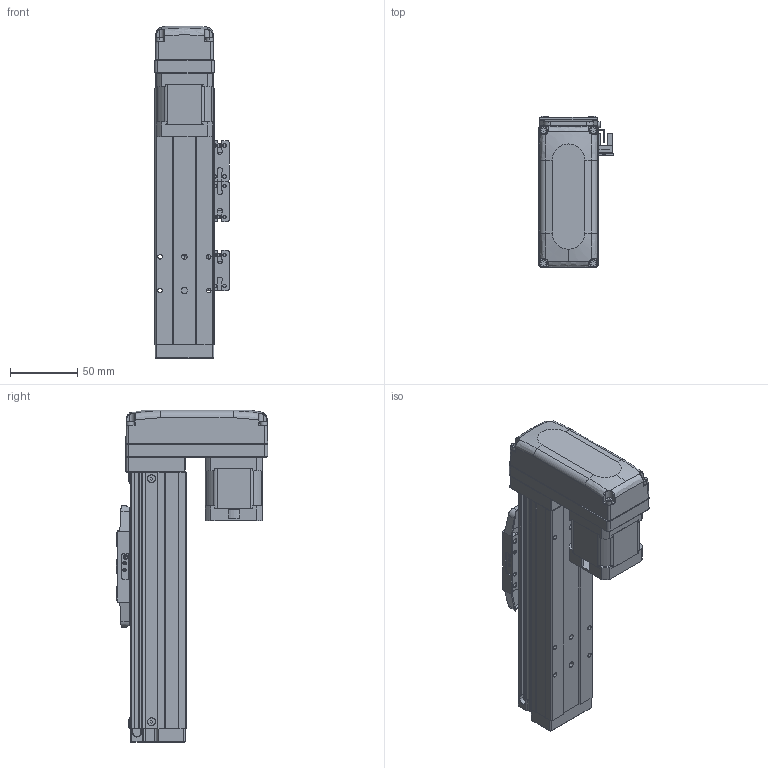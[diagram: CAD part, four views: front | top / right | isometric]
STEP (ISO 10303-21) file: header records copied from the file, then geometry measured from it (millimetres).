
FILE_DESCRIPTION (( 'STEP AP203' ), '1' );
FILE_NAME ('GTH4-50-BM-B42-C4.step', '2023-02-14T00:21:44', ( '微软用户' ), ( '微软中国' ), 'SwSTEP 2.0', 'SolidWorks 2020', '' );
FILE_SCHEMA (( 'CONFIG_CONTROL_DESIGN' ));
Length unit declared in the file: millimetre
Products named in the file (19): BTH40-006; GBT96.1-2002 3×0.8; BTH50-026; BTH-M3X5X6; BTH40-022; 42CM06; GBT70.1-2000 M3×16; GBT 70.1-M2.5×6; GTH4-50-BM-B42-C4; BTH50-028; BTH40-004; BTH50-023; BTH40-013; BTH40-001-50_BTH40-001-50; BTH50-024; GBT 70.3-M3℅6; BTH40-003; GBT 70.1-M3℅6; BTH40-027-1
Assembly tree (47 placements, depth 2):
  GTH4-50-BM-B42-C4
    BTH40-001-50_BTH40-001-50
    BTH40-003
    BTH40-006
    BTH-M3X5X6  x8
    GBT70.1-2000 M3×16  x4
    BTH50-028  x2
    BTH50-023  x3
    BTH50-024  x3
    GBT 70.1-M3℅6  x6
    GBT96.1-2002 3×0.8  x6
    BTH40-022
    GBT 70.1-M2.5×6  x2
    BTH40-004
    BTH40-013
    GBT 70.3-M3℅6  x4
    BTH40-027-1
    BTH50-026
    42CM06
Bounding box: 55.2 x 112 x 246 mm (x, y, z)
Volume: 561378.7 mm3; surface area: 148437 mm2
Topology: 56 solids, 56 shells, 3323 faces, 7736 edges, 4622 vertices
Faces by surface type: cone 1508, plane 1076, cylinder 561, torus 124, bspline 42, sphere 12
Entity records: 77446 total; most frequent: CARTESIAN_POINT 13969, DIRECTION 13761, ORIENTED_EDGE 12118, EDGE_CURVE 6059, AXIS2_PLACEMENT_3D 5277, VERTEX_POINT 3609, VECTOR 3207, LINE 3207
